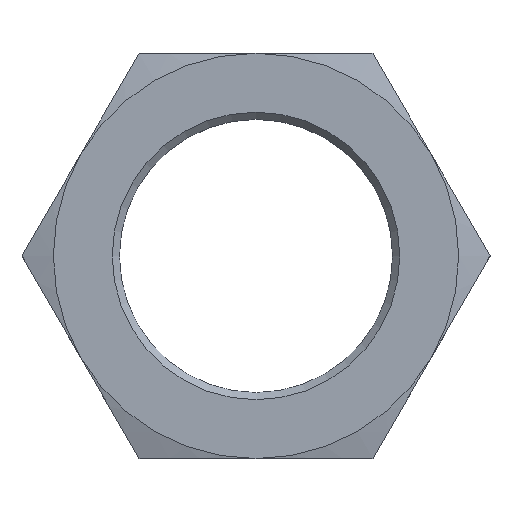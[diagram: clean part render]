
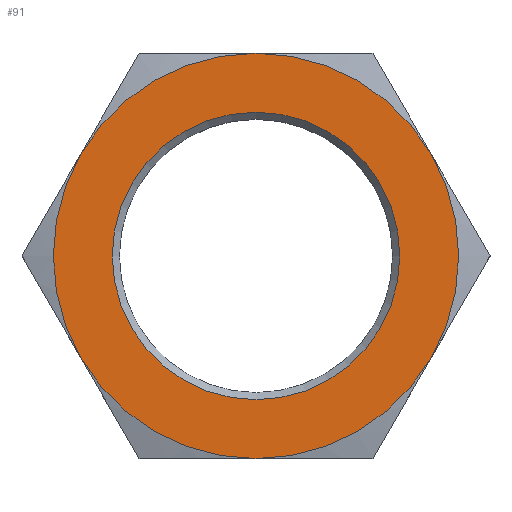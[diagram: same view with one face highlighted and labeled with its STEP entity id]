
A CAD part, top view. The second image highlights one B-rep face of the part: STEP entity #91.
In plain terms, the highlighted planar face has unit normal (0, 0, 1).
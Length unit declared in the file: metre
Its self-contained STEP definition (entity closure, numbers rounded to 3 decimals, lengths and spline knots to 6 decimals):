
#91 = ADVANCED_FACE( '', ( #180, #181 ), #182, .T. );
#180 = FACE_BOUND( '', #261, .T. );
#181 = FACE_OUTER_BOUND( '', #262, .T. );
#182 = PLANE( '', #263 );
#261 = EDGE_LOOP( '', ( #439 ) );
#262 = EDGE_LOOP( '', ( #440, #441, #442, #443, #444, #445 ) );
#263 = AXIS2_PLACEMENT_3D( '', #446, #447, #448 );
#439 = ORIENTED_EDGE( '', *, *, #479, .T. );
#440 = ORIENTED_EDGE( '', *, *, #505, .T. );
#441 = ORIENTED_EDGE( '', *, *, #503, .T. );
#442 = ORIENTED_EDGE( '', *, *, #515, .T. );
#443 = ORIENTED_EDGE( '', *, *, #482, .T. );
#444 = ORIENTED_EDGE( '', *, *, #471, .T. );
#445 = ORIENTED_EDGE( '', *, *, #513, .T. );
#446 = CARTESIAN_POINT( '', ( -0.014722, 0.0085, 0.003 ) );
#447 = DIRECTION( '', ( 0., 0., 1. ) );
#448 = DIRECTION( '', ( 1., 0., 0. ) );
#471 = EDGE_CURVE( '', #535, #554, #556, .T. );
#479 = EDGE_CURVE( '', #568, #568, #569, .F. );
#482 = EDGE_CURVE( '', #545, #535, #573, .T. );
#503 = EDGE_CURVE( '', #594, #564, #599, .T. );
#505 = EDGE_CURVE( '', #601, #594, #602, .T. );
#513 = EDGE_CURVE( '', #554, #601, #610, .T. );
#515 = EDGE_CURVE( '', #564, #545, #612, .T. );
#535 = VERTEX_POINT( '', #646 );
#545 = VERTEX_POINT( '', #669 );
#554 = VERTEX_POINT( '', #684 );
#556 = CIRCLE( '', #691, 0.0085 );
#564 = VERTEX_POINT( '', #708 );
#568 = VERTEX_POINT( '', #720 );
#569 = CIRCLE( '', #721, 0.00603 );
#573 = CIRCLE( '', #725, 0.0085 );
#594 = VERTEX_POINT( '', #762 );
#599 = CIRCLE( '', #773, 0.0085 );
#601 = VERTEX_POINT( '', #775 );
#602 = CIRCLE( '', #776, 0.0085 );
#610 = CIRCLE( '', #793, 0.0085 );
#612 = CIRCLE( '', #795, 0.0085 );
#646 = CARTESIAN_POINT( '', ( -0.007361, -0.00425, 0.003 ) );
#669 = CARTESIAN_POINT( '', ( -0.007361, 0.00425, 0.003 ) );
#684 = CARTESIAN_POINT( '', ( 0., -0.0085, 0.003 ) );
#691 = AXIS2_PLACEMENT_3D( '', #810, #811, #812 );
#708 = CARTESIAN_POINT( '', ( 0., 0.0085, 0.003 ) );
#720 = CARTESIAN_POINT( '', ( 0.00603, 0., 0.003 ) );
#721 = AXIS2_PLACEMENT_3D( '', #814, #815, #816 );
#725 = AXIS2_PLACEMENT_3D( '', #820, #821, #822 );
#762 = CARTESIAN_POINT( '', ( 0.007361, 0.00425, 0.003 ) );
#773 = AXIS2_PLACEMENT_3D( '', #840, #841, #842 );
#775 = CARTESIAN_POINT( '', ( 0.007361, -0.00425, 0.003 ) );
#776 = AXIS2_PLACEMENT_3D( '', #843, #844, #845 );
#793 = AXIS2_PLACEMENT_3D( '', #846, #847, #848 );
#795 = AXIS2_PLACEMENT_3D( '', #849, #850, #851 );
#810 = CARTESIAN_POINT( '', ( 0., 0., 0.003 ) );
#811 = DIRECTION( '', ( 0., 0., 1. ) );
#812 = DIRECTION( '', ( 1., 0., 0. ) );
#814 = CARTESIAN_POINT( '', ( 0., 0., 0.003 ) );
#815 = DIRECTION( '', ( 0., 0., 1. ) );
#816 = DIRECTION( '', ( 1., 0., 0. ) );
#820 = CARTESIAN_POINT( '', ( 0., 0., 0.003 ) );
#821 = DIRECTION( '', ( 0., 0., 1. ) );
#822 = DIRECTION( '', ( 1., 0., 0. ) );
#840 = CARTESIAN_POINT( '', ( 0., 0., 0.003 ) );
#841 = DIRECTION( '', ( 0., 0., 1. ) );
#842 = DIRECTION( '', ( 1., 0., 0. ) );
#843 = CARTESIAN_POINT( '', ( 0., 0., 0.003 ) );
#844 = DIRECTION( '', ( 0., 0., 1. ) );
#845 = DIRECTION( '', ( 1., 0., 0. ) );
#846 = CARTESIAN_POINT( '', ( 0., 0., 0.003 ) );
#847 = DIRECTION( '', ( 0., 0., 1. ) );
#848 = DIRECTION( '', ( 1., 0., 0. ) );
#849 = CARTESIAN_POINT( '', ( 0., 0., 0.003 ) );
#850 = DIRECTION( '', ( 0., 0., 1. ) );
#851 = DIRECTION( '', ( 1., 0., 0. ) );
